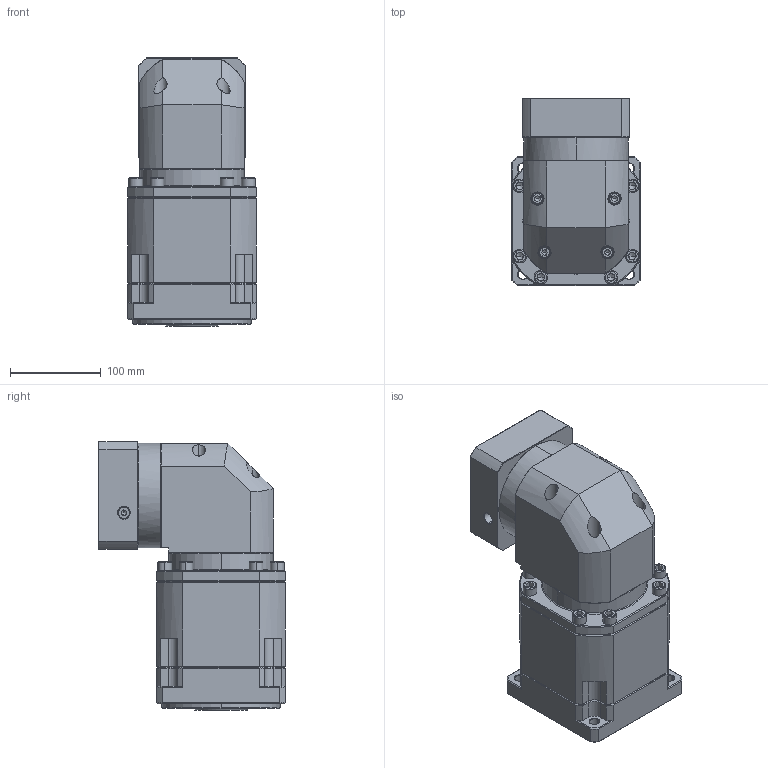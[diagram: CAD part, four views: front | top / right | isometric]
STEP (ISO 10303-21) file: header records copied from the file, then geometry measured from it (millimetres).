
FILE_DESCRIPTION (( 'STEP AP214' ), '1' );
FILE_NAME ('ZBR142A-K35-L3-P2-19-95-115-M8.step', '2023-09-02T08:14:25', ( '' ), ( '' ), 'SwSTEP 2.0', 'SolidWorks 2016', '' );
FILE_SCHEMA (( 'AUTOMOTIVE_DESIGN' ));
Length unit declared in the file: millimetre
Products named in the file (1): ZBR142A-K35-L3-P2-19-95-115-M8
Bounding box: 142 x 205.9 x 295.2 mm (x, y, z)
Volume: 4988451 mm3; surface area: 331251.6 mm2
Topology: 6 solids, 6 shells, 2527 faces, 6586 edges, 4184 vertices
Faces by surface type: plane 1225, cylinder 465, bspline 403, cone 390, torus 44
Entity records: 130373 total; most frequent: CARTESIAN_POINT 43785, ORIENTED_EDGE 13068, DIRECTION 10730, EDGE_CURVE 6534, LINE 4212, VECTOR 4212, VERTEX_POINT 4184, AXIS2_PLACEMENT_3D 3259
